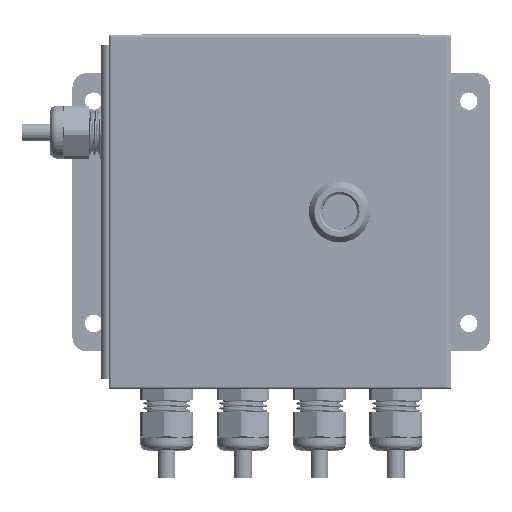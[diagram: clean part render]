
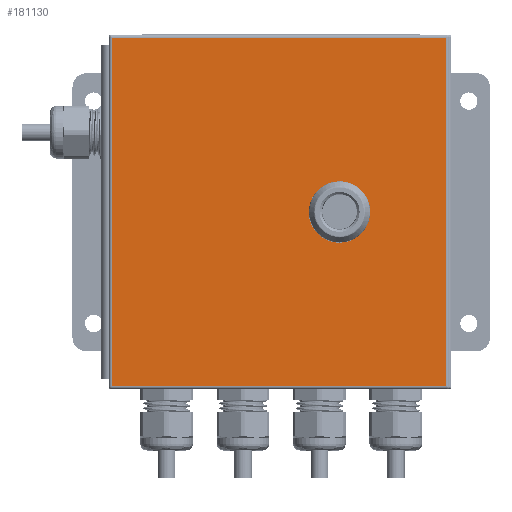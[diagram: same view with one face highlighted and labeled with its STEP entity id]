
A CAD part, top view. The second image highlights one B-rep face of the part: STEP entity #181130.
In plain terms, the highlighted planar face has unit normal (0, 0, 1).
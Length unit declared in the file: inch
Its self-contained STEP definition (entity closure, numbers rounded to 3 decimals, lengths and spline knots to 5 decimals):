
#7415 = DIRECTION ( 'NONE',  ( 1., 0., 0. ) ) ;
#7667 = VECTOR ( 'NONE', #232465, 39.37008 ) ;
#7995 = CARTESIAN_POINT ( 'NONE',  ( -3.0095, -3.1345, 0. ) ) ;
#10056 = VERTEX_POINT ( 'NONE', #303102 ) ;
#18739 = DIRECTION ( 'NONE',  ( 0., 1., 0. ) ) ;
#41426 = CARTESIAN_POINT ( 'NONE',  ( 1.28707, -0.3955, 0. ) ) ;
#46135 = CARTESIAN_POINT ( 'NONE',  ( 1.0875, 0., 0. ) ) ;
#47768 = CIRCLE ( 'NONE', #264675, 0.443 ) ;
#48190 = LINE ( 'NONE', #165629, #133221 ) ;
#51451 = CARTESIAN_POINT ( 'NONE',  ( 0.692, 0.19957, 0. ) ) ;
#61144 = ORIENTED_EDGE ( 'NONE', *, *, #174091, .F. ) ;
#70194 = DIRECTION ( 'NONE',  ( 1., 0., 0. ) ) ;
#70924 = EDGE_LOOP ( 'NONE', ( #106742, #234223, #358685, #61144, #143352, #172722, #462330, #458791 ) ) ;
#71713 = ORIENTED_EDGE ( 'NONE', *, *, #230294, .T. ) ;
#76525 = EDGE_CURVE ( 'NONE', #480996, #408433, #315534, .T. ) ;
#86130 = CARTESIAN_POINT ( 'NONE',  ( 1.0875, 0., 0. ) ) ;
#87979 = VERTEX_POINT ( 'NONE', #7995 ) ;
#90358 = AXIS2_PLACEMENT_3D ( 'NONE', #46135, #155838, #317844 ) ;
#104983 = VECTOR ( 'NONE', #18739, 39.37008 ) ;
#106742 = ORIENTED_EDGE ( 'NONE', *, *, #277564, .F. ) ;
#106758 = DIRECTION ( 'NONE',  ( 0., 0., 1. ) ) ;
#113078 = CARTESIAN_POINT ( 'NONE',  ( 3.0095, 3.1345, 0. ) ) ;
#114716 = DIRECTION ( 'NONE',  ( 1., 0., 0. ) ) ;
#120116 = DIRECTION ( 'NONE',  ( 0., -1., 0. ) ) ;
#123719 = CIRCLE ( 'NONE', #323970, 0.443 ) ;
#130670 = VERTEX_POINT ( 'NONE', #283041 ) ;
#133221 = VECTOR ( 'NONE', #202281, 39.37008 ) ;
#139662 = VERTEX_POINT ( 'NONE', #282331 ) ;
#140897 = CARTESIAN_POINT ( 'NONE',  ( -3.0095, -3.1345, 0. ) ) ;
#141216 = AXIS2_PLACEMENT_3D ( 'NONE', #86130, #159280, #318688 ) ;
#143352 = ORIENTED_EDGE ( 'NONE', *, *, #76525, .F. ) ;
#147089 = DIRECTION ( 'NONE',  ( 0., 0., 1. ) ) ;
#149761 = VERTEX_POINT ( 'NONE', #429388 ) ;
#151280 = DIRECTION ( 'NONE',  ( 0., 0., 1. ) ) ;
#153638 = VECTOR ( 'NONE', #120116, 39.37008 ) ;
#155838 = DIRECTION ( 'NONE',  ( 0., 0., 1. ) ) ;
#157982 = CIRCLE ( 'NONE', #141216, 0.443 ) ;
#159280 = DIRECTION ( 'NONE',  ( 0., 0., 1. ) ) ;
#165629 = CARTESIAN_POINT ( 'NONE',  ( 0.88793, 0.3955, 0. ) ) ;
#172596 = CARTESIAN_POINT ( 'NONE',  ( 3.0095, 3.1345, 0. ) ) ;
#172722 = ORIENTED_EDGE ( 'NONE', *, *, #476037, .F. ) ;
#174091 = EDGE_CURVE ( 'NONE', #408433, #483753, #443584, .T. ) ;
#177753 = DIRECTION ( 'NONE',  ( -1., 0., 0. ) ) ;
#180030 = DIRECTION ( 'NONE',  ( 1., 0., 0. ) ) ;
#181130 = ADVANCED_FACE ( 'NONE', ( #506411, #427980 ), #435687, .T. ) ;
#195537 = ORIENTED_EDGE ( 'NONE', *, *, #292818, .T. ) ;
#202281 = DIRECTION ( 'NONE',  ( -1., 0., 0. ) ) ;
#230294 = EDGE_CURVE ( 'NONE', #282270, #251717, #253612, .T. ) ;
#232465 = DIRECTION ( 'NONE',  ( 0., -1., 0. ) ) ;
#234223 = ORIENTED_EDGE ( 'NONE', *, *, #282431, .F. ) ;
#242811 = CARTESIAN_POINT ( 'NONE',  ( -3.0095, 3.1345, 0. ) ) ;
#243861 = EDGE_CURVE ( 'NONE', #483753, #139662, #123719, .T. ) ;
#251717 = VERTEX_POINT ( 'NONE', #413085 ) ;
#253612 = LINE ( 'NONE', #172596, #477441 ) ;
#258691 = EDGE_CURVE ( 'NONE', #10056, #300342, #157982, .T. ) ;
#264675 = AXIS2_PLACEMENT_3D ( 'NONE', #268890, #151280, #114716 ) ;
#265948 = CARTESIAN_POINT ( 'NONE',  ( 0.692, -0.19957, 0. ) ) ;
#268890 = CARTESIAN_POINT ( 'NONE',  ( 1.0875, 0., 0. ) ) ;
#275480 = CARTESIAN_POINT ( 'NONE',  ( 0.88793, -0.3955, 0. ) ) ;
#277564 = EDGE_CURVE ( 'NONE', #149761, #448661, #47768, .T. ) ;
#282270 = VERTEX_POINT ( 'NONE', #113078 ) ;
#282331 = CARTESIAN_POINT ( 'NONE',  ( 1.483, -0.19957, 0. ) ) ;
#282431 = EDGE_CURVE ( 'NONE', #139662, #149761, #334826, .T. ) ;
#283041 = CARTESIAN_POINT ( 'NONE',  ( 3.0095, -3.1345, 0. ) ) ;
#291841 = VECTOR ( 'NONE', #7415, 39.37008 ) ;
#292818 = EDGE_CURVE ( 'NONE', #251717, #87979, #477961, .T. ) ;
#295454 = CARTESIAN_POINT ( 'NONE',  ( 3.0095, -3.1345, 0. ) ) ;
#295573 = CARTESIAN_POINT ( 'NONE',  ( 1.483, 0.19957, 0. ) ) ;
#300342 = VERTEX_POINT ( 'NONE', #337629 ) ;
#303102 = CARTESIAN_POINT ( 'NONE',  ( 0.88793, 0.3955, 0. ) ) ;
#306457 = DIRECTION ( 'NONE',  ( 1., 0., 0. ) ) ;
#314188 = CARTESIAN_POINT ( 'NONE',  ( 1.0875, 0., 0. ) ) ;
#315534 = CIRCLE ( 'NONE', #90358, 0.443 ) ;
#317844 = DIRECTION ( 'NONE',  ( 1., 0., 0. ) ) ;
#318629 = AXIS2_PLACEMENT_3D ( 'NONE', #464613, #106758, #70194 ) ;
#318688 = DIRECTION ( 'NONE',  ( 1., 0., 0. ) ) ;
#323970 = AXIS2_PLACEMENT_3D ( 'NONE', #314188, #147089, #306457 ) ;
#334701 = LINE ( 'NONE', #295454, #373018 ) ;
#334826 = LINE ( 'NONE', #295573, #104983 ) ;
#337629 = CARTESIAN_POINT ( 'NONE',  ( 0.692, 0.19957, 0. ) ) ;
#340090 = ORIENTED_EDGE ( 'NONE', *, *, #436726, .T. ) ;
#353757 = ORIENTED_EDGE ( 'NONE', *, *, #374464, .T. ) ;
#358685 = ORIENTED_EDGE ( 'NONE', *, *, #243861, .F. ) ;
#365228 = CARTESIAN_POINT ( 'NONE',  ( 0.88793, -0.3955, 0. ) ) ;
#373018 = VECTOR ( 'NONE', #491431, 39.37008 ) ;
#374464 = EDGE_CURVE ( 'NONE', #87979, #130670, #498793, .T. ) ;
#385782 = CARTESIAN_POINT ( 'NONE',  ( 1.28707, 0.3955, 0. ) ) ;
#396975 = LINE ( 'NONE', #51451, #153638 ) ;
#408433 = VERTEX_POINT ( 'NONE', #275480 ) ;
#413085 = CARTESIAN_POINT ( 'NONE',  ( -3.0095, 3.1345, 0. ) ) ;
#427980 = FACE_OUTER_BOUND ( 'NONE', #477591, .T. ) ;
#429388 = CARTESIAN_POINT ( 'NONE',  ( 1.483, 0.19957, 0. ) ) ;
#435687 = PLANE ( 'NONE',  #318629 ) ;
#436726 = EDGE_CURVE ( 'NONE', #130670, #282270, #334701, .T. ) ;
#441196 = EDGE_CURVE ( 'NONE', #448661, #10056, #48190, .T. ) ;
#443584 = LINE ( 'NONE', #365228, #291841 ) ;
#446778 = VECTOR ( 'NONE', #180030, 39.37008 ) ;
#448661 = VERTEX_POINT ( 'NONE', #385782 ) ;
#458791 = ORIENTED_EDGE ( 'NONE', *, *, #441196, .F. ) ;
#462330 = ORIENTED_EDGE ( 'NONE', *, *, #258691, .F. ) ;
#464613 = CARTESIAN_POINT ( 'NONE',  ( 0., 0., 0. ) ) ;
#476037 = EDGE_CURVE ( 'NONE', #300342, #480996, #396975, .T. ) ;
#477441 = VECTOR ( 'NONE', #177753, 39.37008 ) ;
#477591 = EDGE_LOOP ( 'NONE', ( #71713, #195537, #353757, #340090 ) ) ;
#477961 = LINE ( 'NONE', #242811, #7667 ) ;
#480996 = VERTEX_POINT ( 'NONE', #265948 ) ;
#483753 = VERTEX_POINT ( 'NONE', #41426 ) ;
#491431 = DIRECTION ( 'NONE',  ( 0., 1., 0. ) ) ;
#498793 = LINE ( 'NONE', #140897, #446778 ) ;
#506411 = FACE_BOUND ( 'NONE', #70924, .T. ) ;
